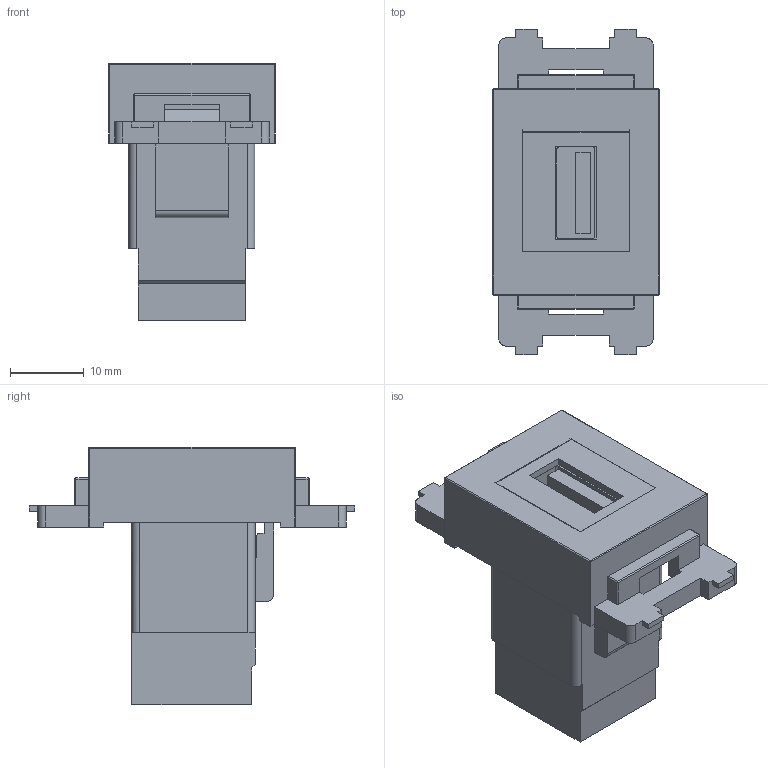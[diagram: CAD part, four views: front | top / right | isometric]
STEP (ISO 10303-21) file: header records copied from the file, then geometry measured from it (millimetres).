
FILE_DESCRIPTION(('FreeCAD Model'),'2;1');
FILE_NAME('Open CASCADE Shape Model','2026-05-12T09:59:16',(''),(''), 'Open CASCADE STEP processor 7.8','FreeCAD','Unknown');
FILE_SCHEMA(('AUTOMOTIVE_DESIGN { 1 0 10303 214 1 1 1 1 }'));
Length unit declared in the file: millimetre
Products named in the file (3): CC_USB3A_XX_KV; SY-NWT-KV-xx; 210USB05N2BK
Assembly tree (2 placements, depth 2):
  CC_USB3A_XX_KV
    SY-NWT-KV-xx
    210USB05N2BK
Bounding box: 22.65 x 44.3 x 35 mm (x, y, z)
Volume: 12179 mm3; surface area: 8752.9 mm2
Topology: 2 solids, 2 shells, 211 faces, 580 edges, 378 vertices
Faces by surface type: bspline 211
Entity records: 9137 total; most frequent: CARTESIAN_POINT 5541, ORIENTED_EDGE 1160, EDGE_CURVE 580, B_SPLINE_CURVE_WITH_KNOTS 580, VERTEX_POINT 378, FACE_BOUND 222, EDGE_LOOP 222, ADVANCED_FACE 211
